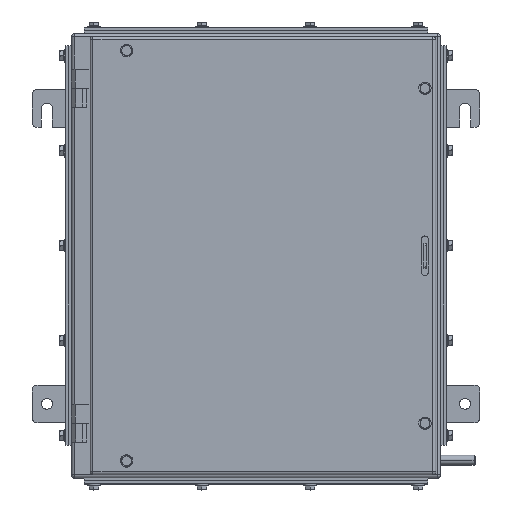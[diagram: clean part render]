
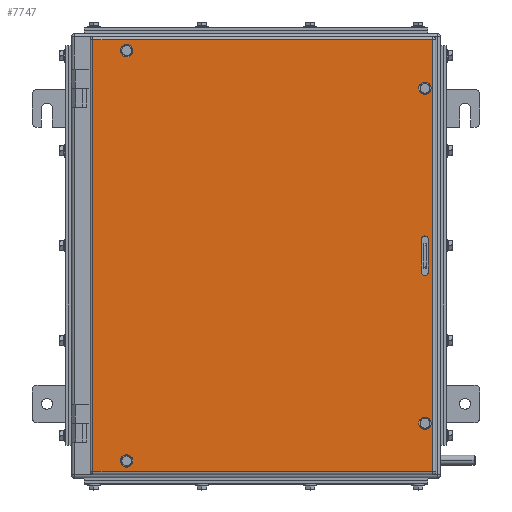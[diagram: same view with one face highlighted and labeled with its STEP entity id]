
A CAD part, top view. The second image highlights one B-rep face of the part: STEP entity #7747.
In plain terms, the highlighted planar face has unit normal (0, 0, 1).
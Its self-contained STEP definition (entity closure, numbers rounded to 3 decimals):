
#623 = AXIS2_PLACEMENT_3D ( 'NONE', #26031, #16826, #17233 ) ;
#724 = CARTESIAN_POINT ( 'NONE',  ( 360., -218., 18. ) ) ;
#829 = DIRECTION ( 'NONE',  ( 0., 0., 1. ) ) ;
#854 = CARTESIAN_POINT ( 'NONE',  ( 48., 207., 18. ) ) ;
#1059 = VECTOR ( 'NONE', #22574, 1000. ) ;
#1358 = ORIENTED_EDGE ( 'NONE', *, *, #21083, .F. ) ;
#1383 = EDGE_CURVE ( 'NONE', #4652, #19167, #3451, .T. ) ;
#2085 = LINE ( 'NONE', #27877, #19857 ) ;
#2199 = CARTESIAN_POINT ( 'NONE',  ( 345.5, -16.5, 18. ) ) ;
#2316 = CARTESIAN_POINT ( 'NONE',  ( 349., -169., 18. ) ) ;
#2346 = PLANE ( 'NONE',  #2867 ) ;
#2471 = VERTEX_POINT ( 'NONE', #21642 ) ;
#2695 = EDGE_LOOP ( 'NONE', ( #3040, #22595 ) ) ;
#2867 = AXIS2_PLACEMENT_3D ( 'NONE', #17609, #6751, #9034 ) ;
#3040 = ORIENTED_EDGE ( 'NONE', *, *, #26609, .F. ) ;
#3209 = VECTOR ( 'NONE', #8194, 1000. ) ;
#3336 = CIRCLE ( 'NONE', #623, 3.5 ) ;
#3340 = CARTESIAN_POINT ( 'NONE',  ( 51.5, 207., 18. ) ) ;
#3451 = CIRCLE ( 'NONE', #19220, 3.5 ) ;
#3920 = EDGE_LOOP ( 'NONE', ( #12925, #23052 ) ) ;
#4293 = AXIS2_PLACEMENT_3D ( 'NONE', #14976, #26023, #17219 ) ;
#4466 = FACE_BOUND ( 'NONE', #16721, .T. ) ;
#4652 = VERTEX_POINT ( 'NONE', #23765 ) ;
#4683 = EDGE_CURVE ( 'NONE', #7104, #13969, #3336, .T. ) ;
#5534 = CARTESIAN_POINT ( 'NONE',  ( 352.5, -16.5, 18. ) ) ;
#5704 = EDGE_CURVE ( 'NONE', #25963, #22175, #27800, .T. ) ;
#5906 = DIRECTION ( 'NONE',  ( 0., 0., 1. ) ) ;
#6589 = DIRECTION ( 'NONE',  ( 1., 0., 0. ) ) ;
#6711 = VERTEX_POINT ( 'NONE', #6913 ) ;
#6751 = DIRECTION ( 'NONE',  ( 0., 0., -1. ) ) ;
#6817 = DIRECTION ( 'NONE',  ( 0., 0., 1. ) ) ;
#6913 = CARTESIAN_POINT ( 'NONE',  ( 357., 218., 18. ) ) ;
#7059 = LINE ( 'NONE', #19876, #1059 ) ;
#7104 = VERTEX_POINT ( 'NONE', #21563 ) ;
#7372 = DIRECTION ( 'NONE',  ( 1., 0., 0. ) ) ;
#7467 = AXIS2_PLACEMENT_3D ( 'NONE', #854, #22498, #9112 ) ;
#7644 = CIRCLE ( 'NONE', #21164, 3.5 ) ;
#7740 = CARTESIAN_POINT ( 'NONE',  ( 349., 16.5, 18. ) ) ;
#7747 = ADVANCED_FACE ( 'NONE', ( #4466, #21191, #23999, #25477, #10489, #21721 ), #2346, .F. ) ;
#8194 = DIRECTION ( 'NONE',  ( 0., 1., 0. ) ) ;
#8478 = DIRECTION ( 'NONE',  ( 0., -1., 0. ) ) ;
#8539 = VECTOR ( 'NONE', #24963, 1000. ) ;
#9034 = DIRECTION ( 'NONE',  ( -1., 0., 0. ) ) ;
#9112 = DIRECTION ( 'NONE',  ( 1., 0., 0. ) ) ;
#9140 = ORIENTED_EDGE ( 'NONE', *, *, #19493, .F. ) ;
#9248 = CARTESIAN_POINT ( 'NONE',  ( 48., 207., 18. ) ) ;
#9814 = DIRECTION ( 'NONE',  ( 1., 0., 0. ) ) ;
#9832 = CARTESIAN_POINT ( 'NONE',  ( 14., 218., 18. ) ) ;
#10306 = ORIENTED_EDGE ( 'NONE', *, *, #14013, .T. ) ;
#10316 = DIRECTION ( 'NONE',  ( 1., 0., 0. ) ) ;
#10319 = ORIENTED_EDGE ( 'NONE', *, *, #27137, .F. ) ;
#10342 = LINE ( 'NONE', #18890, #3209 ) ;
#10489 = FACE_BOUND ( 'NONE', #3920, .T. ) ;
#10623 = CIRCLE ( 'NONE', #27796, 3.5 ) ;
#10840 = ORIENTED_EDGE ( 'NONE', *, *, #17900, .T. ) ;
#11094 = DIRECTION ( 'NONE',  ( 1., 0., 0. ) ) ;
#11290 = VECTOR ( 'NONE', #20383, 1000. ) ;
#11701 = VECTOR ( 'NONE', #11094, 1000. ) ;
#12155 = CARTESIAN_POINT ( 'NONE',  ( 349., -169., 18. ) ) ;
#12326 = DIRECTION ( 'NONE',  ( 0., 0., 1. ) ) ;
#12424 = AXIS2_PLACEMENT_3D ( 'NONE', #15701, #6817, #13460 ) ;
#12925 = ORIENTED_EDGE ( 'NONE', *, *, #5704, .F. ) ;
#13460 = DIRECTION ( 'NONE',  ( 1., 0., 0. ) ) ;
#13724 = EDGE_CURVE ( 'NONE', #6711, #21650, #21099, .T. ) ;
#13932 = CARTESIAN_POINT ( 'NONE',  ( 352.5, 16.5, 18. ) ) ;
#13969 = VERTEX_POINT ( 'NONE', #22368 ) ;
#14013 = EDGE_CURVE ( 'NONE', #23219, #19831, #15724, .T. ) ;
#14135 = VERTEX_POINT ( 'NONE', #5534 ) ;
#14196 = EDGE_CURVE ( 'NONE', #13969, #7104, #7644, .T. ) ;
#14449 = ORIENTED_EDGE ( 'NONE', *, *, #23002, .F. ) ;
#14894 = EDGE_CURVE ( 'NONE', #21650, #23219, #2085, .T. ) ;
#14976 = CARTESIAN_POINT ( 'NONE',  ( 349., -16.5, 18. ) ) ;
#15418 = EDGE_LOOP ( 'NONE', ( #10306, #10840, #20432, #25915 ) ) ;
#15701 = CARTESIAN_POINT ( 'NONE',  ( 349., 169., 18. ) ) ;
#15724 = LINE ( 'NONE', #724, #11701 ) ;
#15933 = CIRCLE ( 'NONE', #27247, 3.5 ) ;
#16034 = LINE ( 'NONE', #22664, #11290 ) ;
#16134 = ORIENTED_EDGE ( 'NONE', *, *, #14196, .F. ) ;
#16305 = EDGE_CURVE ( 'NONE', #14135, #21671, #10342, .T. ) ;
#16310 = CARTESIAN_POINT ( 'NONE',  ( 360., 218., 18. ) ) ;
#16680 = VERTEX_POINT ( 'NONE', #27565 ) ;
#16721 = EDGE_LOOP ( 'NONE', ( #14449, #9140, #18003, #1358 ) ) ;
#16797 = CARTESIAN_POINT ( 'NONE',  ( 345.5, 16.5, 18. ) ) ;
#16826 = DIRECTION ( 'NONE',  ( 0., 0., 1. ) ) ;
#16938 = CIRCLE ( 'NONE', #20069, 3.5 ) ;
#17219 = DIRECTION ( 'NONE',  ( 1., 0., 0. ) ) ;
#17233 = DIRECTION ( 'NONE',  ( 1., 0., 0. ) ) ;
#17609 = CARTESIAN_POINT ( 'NONE',  ( 360., 221., 18. ) ) ;
#17900 = EDGE_CURVE ( 'NONE', #19831, #6711, #7059, .T. ) ;
#18003 = ORIENTED_EDGE ( 'NONE', *, *, #16305, .F. ) ;
#18395 = ORIENTED_EDGE ( 'NONE', *, *, #4683, .F. ) ;
#18890 = CARTESIAN_POINT ( 'NONE',  ( 352.5, 16.5, 18. ) ) ;
#19167 = VERTEX_POINT ( 'NONE', #27925 ) ;
#19220 = AXIS2_PLACEMENT_3D ( 'NONE', #12155, #829, #20197 ) ;
#19324 = EDGE_CURVE ( 'NONE', #2471, #16680, #22805, .T. ) ;
#19493 = EDGE_CURVE ( 'NONE', #21671, #25440, #16938, .T. ) ;
#19678 = VERTEX_POINT ( 'NONE', #2199 ) ;
#19831 = VERTEX_POINT ( 'NONE', #26413 ) ;
#19857 = VECTOR ( 'NONE', #8478, 1000. ) ;
#19876 = CARTESIAN_POINT ( 'NONE',  ( 357., 221., 18. ) ) ;
#20069 = AXIS2_PLACEMENT_3D ( 'NONE', #7740, #5906, #10316 ) ;
#20197 = DIRECTION ( 'NONE',  ( 1., 0., 0. ) ) ;
#20383 = DIRECTION ( 'NONE',  ( 0., -1., 0. ) ) ;
#20432 = ORIENTED_EDGE ( 'NONE', *, *, #13724, .T. ) ;
#20838 = EDGE_CURVE ( 'NONE', #22175, #25963, #10623, .T. ) ;
#20956 = CARTESIAN_POINT ( 'NONE',  ( 14., -218., 18. ) ) ;
#21083 = EDGE_CURVE ( 'NONE', #19678, #14135, #21921, .T. ) ;
#21099 = LINE ( 'NONE', #16310, #8539 ) ;
#21164 = AXIS2_PLACEMENT_3D ( 'NONE', #25070, #12326, #9814 ) ;
#21191 = FACE_BOUND ( 'NONE', #21557, .T. ) ;
#21557 = EDGE_LOOP ( 'NONE', ( #18395, #16134 ) ) ;
#21563 = CARTESIAN_POINT ( 'NONE',  ( 51.5, -207., 18. ) ) ;
#21632 = ORIENTED_EDGE ( 'NONE', *, *, #19324, .F. ) ;
#21642 = CARTESIAN_POINT ( 'NONE',  ( 345.5, 169., 18. ) ) ;
#21650 = VERTEX_POINT ( 'NONE', #9832 ) ;
#21671 = VERTEX_POINT ( 'NONE', #13932 ) ;
#21721 = FACE_OUTER_BOUND ( 'NONE', #15418, .T. ) ;
#21921 = CIRCLE ( 'NONE', #4293, 3.5 ) ;
#22082 = DIRECTION ( 'NONE',  ( 0., 0., 1. ) ) ;
#22175 = VERTEX_POINT ( 'NONE', #23731 ) ;
#22368 = CARTESIAN_POINT ( 'NONE',  ( 44.5, -207., 18. ) ) ;
#22498 = DIRECTION ( 'NONE',  ( 0., 0., 1. ) ) ;
#22574 = DIRECTION ( 'NONE',  ( 0., 1., 0. ) ) ;
#22595 = ORIENTED_EDGE ( 'NONE', *, *, #1383, .F. ) ;
#22664 = CARTESIAN_POINT ( 'NONE',  ( 345.5, 16.5, 18. ) ) ;
#22805 = CIRCLE ( 'NONE', #12424, 3.5 ) ;
#23002 = EDGE_CURVE ( 'NONE', #25440, #19678, #16034, .T. ) ;
#23052 = ORIENTED_EDGE ( 'NONE', *, *, #20838, .F. ) ;
#23219 = VERTEX_POINT ( 'NONE', #20956 ) ;
#23584 = AXIS2_PLACEMENT_3D ( 'NONE', #2316, #26103, #6589 ) ;
#23731 = CARTESIAN_POINT ( 'NONE',  ( 44.5, 207., 18. ) ) ;
#23765 = CARTESIAN_POINT ( 'NONE',  ( 345.5, -169., 18. ) ) ;
#23999 = FACE_BOUND ( 'NONE', #2695, .T. ) ;
#24032 = CIRCLE ( 'NONE', #23584, 3.5 ) ;
#24508 = CARTESIAN_POINT ( 'NONE',  ( 349., 169., 18. ) ) ;
#24963 = DIRECTION ( 'NONE',  ( -1., 0., 0. ) ) ;
#25070 = CARTESIAN_POINT ( 'NONE',  ( 48., -207., 18. ) ) ;
#25440 = VERTEX_POINT ( 'NONE', #16797 ) ;
#25477 = FACE_BOUND ( 'NONE', #25804, .T. ) ;
#25804 = EDGE_LOOP ( 'NONE', ( #10319, #21632 ) ) ;
#25915 = ORIENTED_EDGE ( 'NONE', *, *, #14894, .T. ) ;
#25963 = VERTEX_POINT ( 'NONE', #3340 ) ;
#26023 = DIRECTION ( 'NONE',  ( 0., 0., 1. ) ) ;
#26031 = CARTESIAN_POINT ( 'NONE',  ( 48., -207., 18. ) ) ;
#26103 = DIRECTION ( 'NONE',  ( 0., 0., 1. ) ) ;
#26413 = CARTESIAN_POINT ( 'NONE',  ( 357., -218., 18. ) ) ;
#26609 = EDGE_CURVE ( 'NONE', #19167, #4652, #24032, .T. ) ;
#26770 = DIRECTION ( 'NONE',  ( 0., 0., 1. ) ) ;
#26921 = DIRECTION ( 'NONE',  ( 1., 0., 0. ) ) ;
#27137 = EDGE_CURVE ( 'NONE', #16680, #2471, #15933, .T. ) ;
#27247 = AXIS2_PLACEMENT_3D ( 'NONE', #24508, #26770, #26921 ) ;
#27565 = CARTESIAN_POINT ( 'NONE',  ( 352.5, 169., 18. ) ) ;
#27796 = AXIS2_PLACEMENT_3D ( 'NONE', #9248, #22082, #7372 ) ;
#27800 = CIRCLE ( 'NONE', #7467, 3.5 ) ;
#27877 = CARTESIAN_POINT ( 'NONE',  ( 14., 221., 18. ) ) ;
#27925 = CARTESIAN_POINT ( 'NONE',  ( 352.5, -169., 18. ) ) ;
